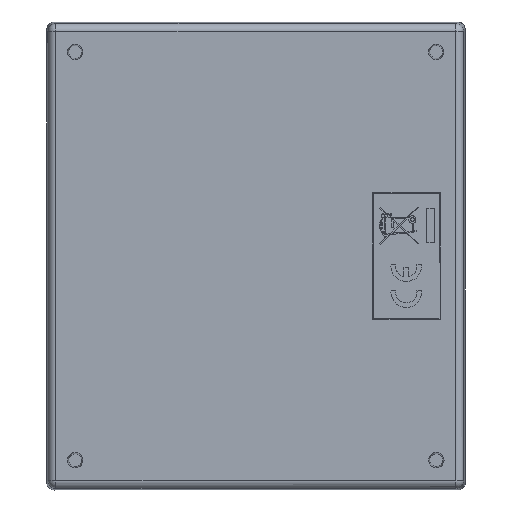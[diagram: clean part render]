
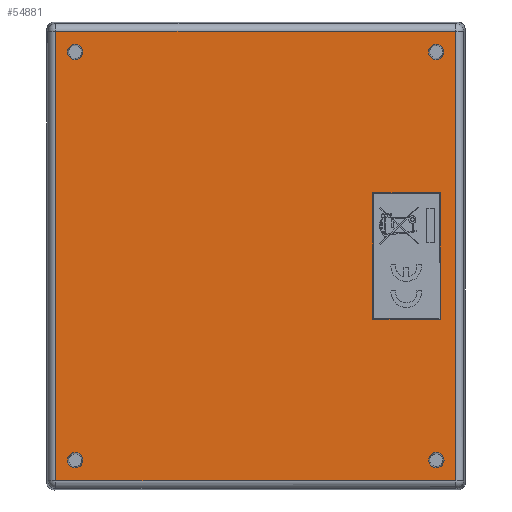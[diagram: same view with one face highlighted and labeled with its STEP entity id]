
A CAD part, front view. The second image highlights one B-rep face of the part: STEP entity #54881.
In plain terms, the highlighted planar face has unit normal (0, -1, 0) as drawn and (0, 0, -1) by its records, which use the part's own axes.
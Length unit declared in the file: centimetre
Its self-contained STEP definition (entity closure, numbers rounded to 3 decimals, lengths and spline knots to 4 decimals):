
#22706=VECTOR('',#59748,1.);
#22709=VECTOR('',#59752,1.);
#22712=VECTOR('',#59756,1.);
#22715=VECTOR('',#59760,1.);
#22876=VECTOR('',#59993,1.);
#22877=VECTOR('',#59994,1.);
#22878=VECTOR('',#59995,1.);
#22879=VECTOR('',#59996,1.);
#26511=LINE('',#68293,#22706);
#26514=LINE('',#68299,#22709);
#26517=LINE('',#68305,#22712);
#26520=LINE('',#68310,#22715);
#26681=LINE('',#69385,#22876);
#26682=LINE('',#69388,#22877);
#26683=LINE('',#69390,#22878);
#26684=LINE('',#69392,#22879);
#30292=PLANE('',#56748);
#31538=VERTEX_POINT('',#68292);
#31539=VERTEX_POINT('',#68294);
#31541=VERTEX_POINT('',#68300);
#31543=VERTEX_POINT('',#68306);
#31664=VERTEX_POINT('',#69378);
#31665=VERTEX_POINT('',#69380);
#31666=VERTEX_POINT('',#69382);
#31667=VERTEX_POINT('',#69384);
#31668=VERTEX_POINT('',#69386);
#31669=VERTEX_POINT('',#69387);
#31670=VERTEX_POINT('',#69389);
#31671=VERTEX_POINT('',#69391);
#34773=CIRCLE('',#56749,0.1249);
#34774=CIRCLE('',#56750,0.1249);
#34775=CIRCLE('',#56751,0.1249);
#34776=CIRCLE('',#56752,0.1249);
#35436=EDGE_CURVE('',#31539,#31538,#26511,.F.);
#35439=EDGE_CURVE('',#31541,#31539,#26514,.F.);
#35442=EDGE_CURVE('',#31543,#31541,#26517,.F.);
#35445=EDGE_CURVE('',#31538,#31543,#26520,.F.);
#35626=EDGE_CURVE('',#31664,#31664,#34773,.F.);
#35627=EDGE_CURVE('',#31665,#31665,#34774,.F.);
#35628=EDGE_CURVE('',#31666,#31666,#34775,.F.);
#35629=EDGE_CURVE('',#31667,#31667,#34776,.F.);
#35630=EDGE_CURVE('',#31668,#31669,#26681,.T.);
#35631=EDGE_CURVE('',#31670,#31668,#26682,.T.);
#35632=EDGE_CURVE('',#31671,#31670,#26683,.T.);
#35633=EDGE_CURVE('',#31669,#31671,#26684,.T.);
#40989=ORIENTED_EDGE('',*,*,#35626,.T.);
#40990=ORIENTED_EDGE('',*,*,#35627,.T.);
#40991=ORIENTED_EDGE('',*,*,#35628,.T.);
#40992=ORIENTED_EDGE('',*,*,#35629,.T.);
#40993=ORIENTED_EDGE('',*,*,#35630,.F.);
#40994=ORIENTED_EDGE('',*,*,#35631,.F.);
#40995=ORIENTED_EDGE('',*,*,#35632,.F.);
#40996=ORIENTED_EDGE('',*,*,#35633,.F.);
#40997=ORIENTED_EDGE('',*,*,#35436,.T.);
#40998=ORIENTED_EDGE('',*,*,#35445,.T.);
#40999=ORIENTED_EDGE('',*,*,#35442,.T.);
#41000=ORIENTED_EDGE('',*,*,#35439,.T.);
#50547=EDGE_LOOP('',(#40989));
#50548=EDGE_LOOP('',(#40990));
#50549=EDGE_LOOP('',(#40991));
#50550=EDGE_LOOP('',(#40992));
#50551=EDGE_LOOP('',(#40993,#40994,#40995,#40996));
#50552=EDGE_LOOP('',(#40997,#40998,#40999,#41000));
#52721=FACE_BOUND('',#50547,.T.);
#52722=FACE_BOUND('',#50548,.T.);
#52723=FACE_BOUND('',#50549,.T.);
#52724=FACE_BOUND('',#50550,.T.);
#52725=FACE_BOUND('',#50551,.T.);
#52726=FACE_BOUND('',#50552,.T.);
#54881=ADVANCED_FACE('',(#52721,#52722,#52723,#52724,#52725,#52726),#30292,
 .F.);
#56748=AXIS2_PLACEMENT_3D('',#69376,#59984,$);
#56749=AXIS2_PLACEMENT_3D('',#69377,#59985,#59986);
#56750=AXIS2_PLACEMENT_3D('',#69379,#59987,#59988);
#56751=AXIS2_PLACEMENT_3D('',#69381,#59989,#59990);
#56752=AXIS2_PLACEMENT_3D('',#69383,#59991,#59992);
#59748=DIRECTION('',(-1.,0.,0.));
#59752=DIRECTION('',(0.,1.,0.));
#59756=DIRECTION('',(1.,0.,0.));
#59760=DIRECTION('',(0.,-1.,0.));
#59984=DIRECTION('',(0.,0.,1.));
#59985=DIRECTION('',(0.,0.,-1.));
#59986=DIRECTION('',(-0.125,0.,0.));
#59987=DIRECTION('',(0.,0.,-1.));
#59988=DIRECTION('',(-0.125,0.,0.));
#59989=DIRECTION('',(0.,0.,-1.));
#59990=DIRECTION('',(-0.125,0.,0.));
#59991=DIRECTION('',(0.,0.,-1.));
#59992=DIRECTION('',(-0.125,0.,0.));
#59993=DIRECTION('',(-1.,0.,0.));
#59994=DIRECTION('',(0.,1.,0.));
#59995=DIRECTION('',(1.,0.,0.));
#59996=DIRECTION('',(0.,-1.,0.));
#68292=CARTESIAN_POINT('',(1.0231,-2.9888,-0.0032));
#68293=CARTESIAN_POINT('',(0.,-2.9888,-0.0032));
#68294=CARTESIAN_POINT('',(-1.0231,-2.9888,-0.0032));
#68299=CARTESIAN_POINT('',(-1.0231,-0.6105,-0.0032));
#68300=CARTESIAN_POINT('',(-1.0231,-1.895,-0.0032));
#68305=CARTESIAN_POINT('',(0.,-1.895,-0.0032));
#68306=CARTESIAN_POINT('',(1.0231,-1.895,-0.0032));
#68310=CARTESIAN_POINT('',(1.0231,-0.6105,-0.0032));
#69376=CARTESIAN_POINT('',(0.,0.,-0.0032));
#69377=CARTESIAN_POINT('',(3.302,2.921,-0.0032));
#69378=CARTESIAN_POINT('',(3.4269,2.921,-0.0032));
#69379=CARTESIAN_POINT('',(3.302,-2.921,-0.0032));
#69380=CARTESIAN_POINT('',(3.4269,-2.921,-0.0032));
#69381=CARTESIAN_POINT('',(-3.302,-2.921,-0.0032));
#69382=CARTESIAN_POINT('',(-3.1771,-2.921,-0.0032));
#69383=CARTESIAN_POINT('',(-3.302,2.921,-0.0032));
#69384=CARTESIAN_POINT('',(-3.1771,2.921,-0.0032));
#69385=CARTESIAN_POINT('',(0.,3.2357,-0.0032));
#69386=CARTESIAN_POINT('',(3.6357,3.2357,-0.0032));
#69387=CARTESIAN_POINT('',(-3.6357,3.2357,-0.0032));
#69388=CARTESIAN_POINT('',(3.6357,0.,-0.0032));
#69389=CARTESIAN_POINT('',(3.6357,-3.2357,-0.0032));
#69390=CARTESIAN_POINT('',(0.,-3.2357,-0.0032));
#69391=CARTESIAN_POINT('',(-3.6357,-3.2357,-0.0032));
#69392=CARTESIAN_POINT('',(-3.6357,0.,-0.0032));
